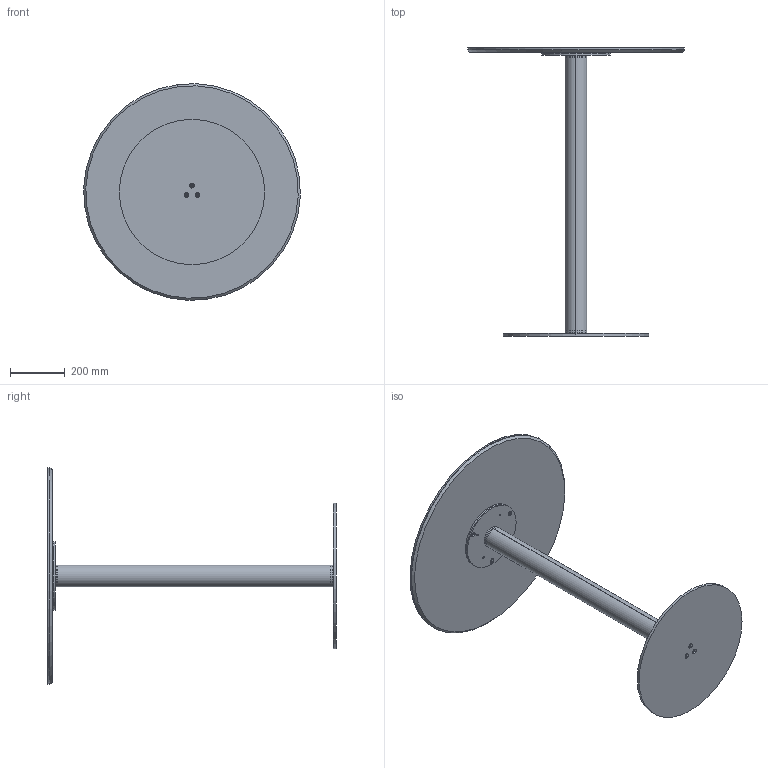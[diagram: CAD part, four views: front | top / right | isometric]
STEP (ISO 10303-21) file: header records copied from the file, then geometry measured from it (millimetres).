
FILE_DESCRIPTION (( 'STEP AP203' ), '1' );
FILE_NAME ('CB15C.STEP', '2024-08-08T08:49:11', ( '' ), ( '' ), 'SwSTEP 2.0', 'SolidWorks 2022', '' );
FILE_SCHEMA (( 'CONFIG_CONTROL_DESIGN' ));
Length unit declared in the file: millimetre
Products named in the file (7): K1XCMXX-00-Piani Rotondi in ceramica_D.790; CBS000000BAS-00-BISTRO PIASTRA INFERIORE_D.530; P0000003-00-STAFFA DI FISSAGGIO DIAMETRO 250_P0000003-250mm normale; CBS200000PST-00-CONTROPIASTRA PER PIASTRA D.25cm GREZZO_250; CBSH00000COL-01-CILINDRO BISTRO COLONNA H105; KXXCXX-00-Piani Rotondi in ceramica CON PIASTRA_K12P PIANO CERAMICA D.79cm; CB15C
Assembly tree (6 placements, depth 3):
  CB15C
    CBS000000BAS-00-BISTRO PIASTRA INFERIORE_D.530
    CBSH00000COL-01-CILINDRO BISTRO COLONNA H105
    KXXCXX-00-Piani Rotondi in ceramica CON PIASTRA_K12P PIANO CERAMICA D.79cm
      K1XCMXX-00-Piani Rotondi in ceramica_D.790
      P0000003-00-STAFFA DI FISSAGGIO DIAMETRO 250_P0000003-250mm normale
    CBS200000PST-00-CONTROPIASTRA PER PIASTRA D.25cm GREZZO_250
Bounding box: 789.44 x 1051 x 789.44 mm (x, y, z)
Volume: 11042086.1 mm3; surface area: 3170634.7 mm2
Topology: 8 solids, 8 shells, 110 faces, 254 edges, 160 vertices
Faces by surface type: cylinder 66, cone 28, plane 16
Entity records: 4013 total; most frequent: DIRECTION 654, CARTESIAN_POINT 534, ORIENTED_EDGE 508, AXIS2_PLACEMENT_3D 280, EDGE_CURVE 254, VERTEX_POINT 160, CIRCLE 160, EDGE_LOOP 160
